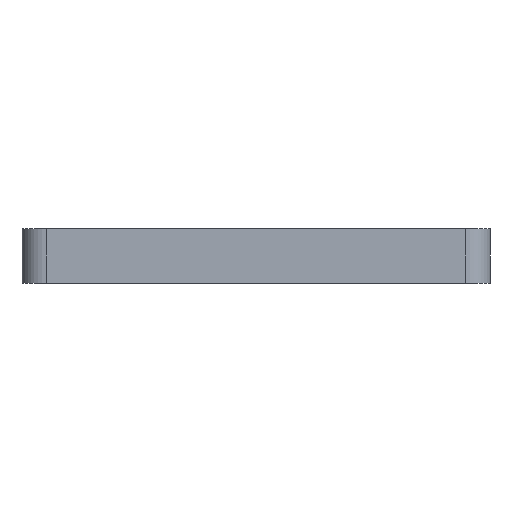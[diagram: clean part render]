
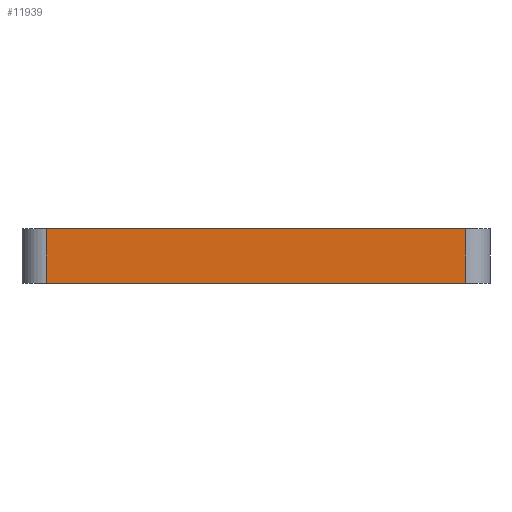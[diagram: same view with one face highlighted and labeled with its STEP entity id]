
A CAD part, left-side view. The second image highlights one B-rep face of the part: STEP entity #11939.
In plain terms, the highlighted planar face has unit normal (-1, 0, 0).
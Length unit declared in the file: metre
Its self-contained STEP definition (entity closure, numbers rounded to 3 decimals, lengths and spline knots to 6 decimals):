
#1351=ORIENTED_EDGE('',*,*,#4958,.T.);
#1352=ORIENTED_EDGE('',*,*,#4969,.T.);
#1353=ORIENTED_EDGE('',*,*,#4431,.F.);
#1354=ORIENTED_EDGE('',*,*,#4970,.T.);
#4431=EDGE_CURVE('',#6244,#6245,#7435,.T.);
#4958=EDGE_CURVE('',#6767,#6766,#7769,.T.);
#4969=EDGE_CURVE('',#6766,#6245,#7778,.T.);
#4970=EDGE_CURVE('',#6244,#6767,#7779,.F.);
#6244=VERTEX_POINT('',#16765);
#6245=VERTEX_POINT('',#16767);
#6766=VERTEX_POINT('',#17934);
#6767=VERTEX_POINT('',#17936);
#7435=LINE('',#16766,#8755);
#7769=LINE('',#17935,#9089);
#7778=LINE('',#17955,#9098);
#7779=LINE('',#17956,#9099);
#8755=VECTOR('',#13587,1.);
#9089=VECTOR('',#14207,1.);
#9098=VECTOR('',#14224,1.);
#9099=VECTOR('',#14225,1.);
#10101=EDGE_LOOP('',(#1351,#1352,#1353,#1354));
#10837=FACE_BOUND('',#10101,.T.);
#11520=PLANE('',#12770);
#11939=ADVANCED_FACE('',(#10837),#11520,.T.);
#12770=AXIS2_PLACEMENT_3D('',#17954,#14222,#14223);
#13587=DIRECTION('',(0.,-1.,0.));
#14207=DIRECTION('',(0.,-1.,0.));
#14222=DIRECTION('',(-1.,0.,0.));
#14223=DIRECTION('',(0.,0.,1.));
#14224=DIRECTION('',(0.,0.,1.));
#14225=DIRECTION('',(0.,0.,1.));
#16765=CARTESIAN_POINT('',(-0.151152,-0.00164,0.033));
#16766=CARTESIAN_POINT('',(-0.151152,-0.03614,0.033));
#16767=CARTESIAN_POINT('',(-0.151152,-0.07064,0.033));
#17934=CARTESIAN_POINT('',(-0.151152,-0.07064,0.024));
#17935=CARTESIAN_POINT('',(-0.151152,-0.03614,0.024));
#17936=CARTESIAN_POINT('',(-0.151152,-0.00164,0.024));
#17954=CARTESIAN_POINT('',(-0.151152,-0.03614,0.024));
#17955=CARTESIAN_POINT('',(-0.151152,-0.07064,0.024));
#17956=CARTESIAN_POINT('',(-0.151152,-0.00164,0.024));
